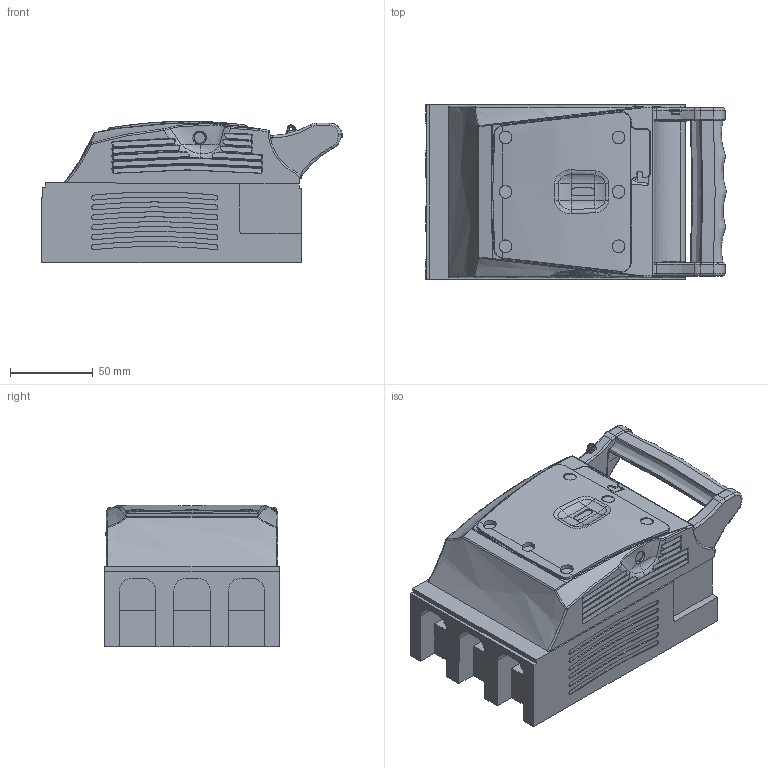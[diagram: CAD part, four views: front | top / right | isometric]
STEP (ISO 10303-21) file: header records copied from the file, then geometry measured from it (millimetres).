
FILE_DESCRIPTION(/* description */ (''),/* implementation_level */ '2;1');
FILE_NAME(/* name */ '335025_SECC 3P BS NH00.stp',/* time_stamp */ '2021-11-05T14:33:45+01:00',/* author */ (''),/* organization */ (''),/* preprocessor_version */ 'ST-DEVELOPER v18.1',/* originating_system */ 'SIEMENS PLM Software NX 1992',/* authorisation */ '');
FILE_SCHEMA (('AUTOMOTIVE_DESIGN { 1 0 10303 214 3 1 1 1 }'));
Length unit declared in the file: millimetre
Products named in the file (1): 335025_SECC 3P BS NH00
Bounding box: 182.21 x 106 x 85.77 mm (x, y, z)
Volume: 1140817.7 mm3; surface area: 97951.6 mm2
Topology: 1 solids, 4 shells, 709 faces, 1878 edges, 1192 vertices
Faces by surface type: plane 220, cylinder 174, cone 111, bspline 109, torus 64, sphere 21, revolution 7, extrusion 3
Full cylindrical faces by diameter (mm): 2.2 x1, 5.2 x4, 6.6 x1
Entity records: 34169 total; most frequent: CARTESIAN_POINT 14670, ORIENTED_EDGE 3650, DIRECTION 2768, EDGE_CURVE 1825, VERTEX_POINT 1181, AXIS2_PLACEMENT_3D 1068, EDGE_LOOP 772, B_SPLINE_CURVE_WITH_KNOTS 713
